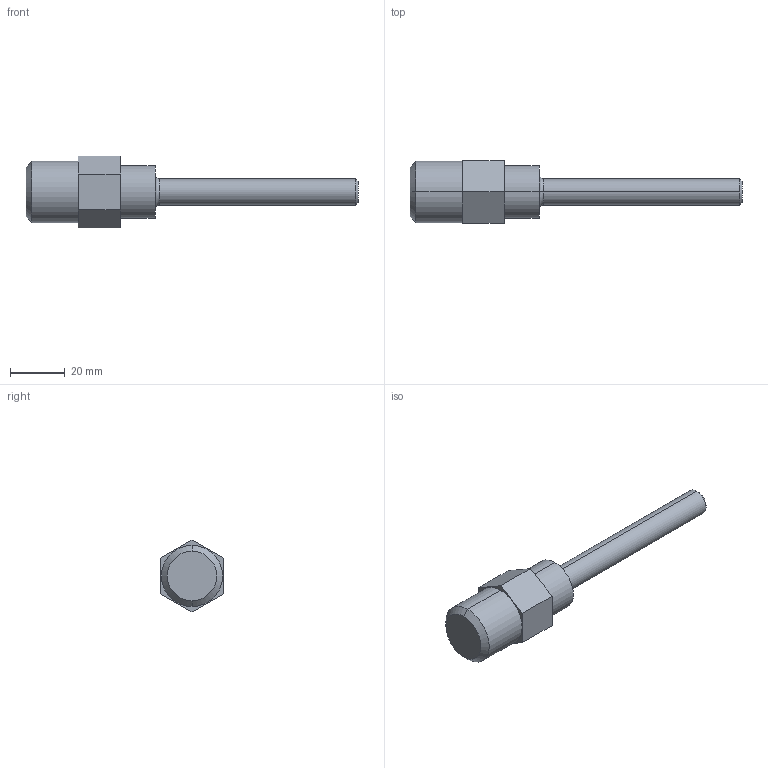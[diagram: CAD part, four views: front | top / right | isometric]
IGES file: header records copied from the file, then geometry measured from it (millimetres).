
Start section: SolidWorks IGES file using analytic representation for surfaces
Global section: file name: S:\Product Visuals\Defeatured Models and Parts Library\Parts Library IGES & STEP\Liquid Fittings\Front Mount liquid Fittings\Tubeout\30LPM\Fitting Tubeout 06.IGS; native system: SolidWorks 2012; preprocessor: SolidWorks 2012; author: rachel.dressel; date: 120926.153035; units: inch
Bounding box: 120.8 x 22.66 x 26.16 mm (x, y, z)
Volume: 22917.2 mm3; surface area: 6258.7 mm2
Topology: 1 solids, 1 shells, 23 faces, 48 edges, 30 vertices
Faces by surface type: revolution 12, plane 11
